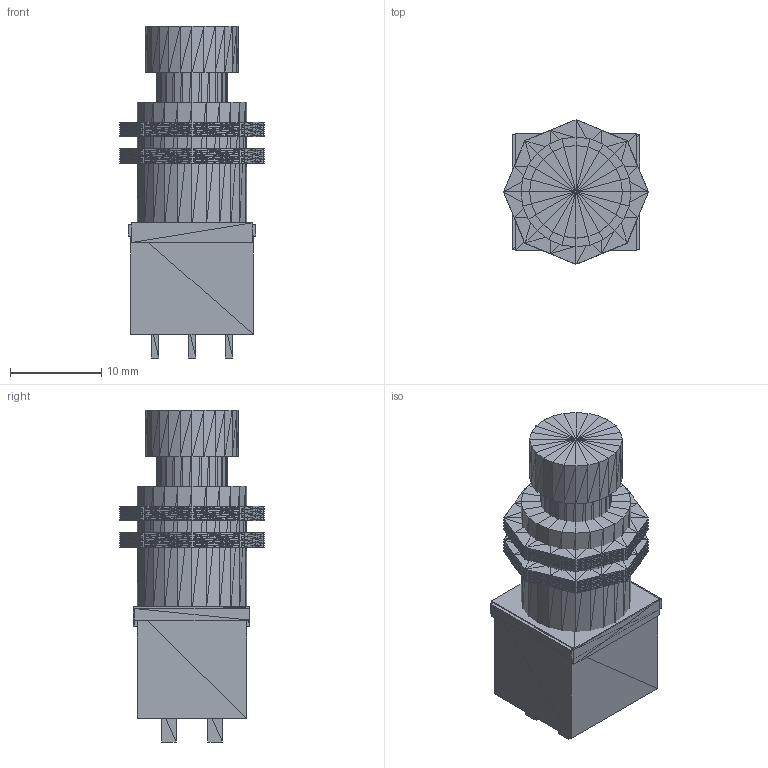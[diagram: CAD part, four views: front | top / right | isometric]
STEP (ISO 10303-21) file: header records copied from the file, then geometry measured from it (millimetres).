
FILE_DESCRIPTION(('HOOPS Exchange Step'),'2;1');
FILE_NAME('***.stp');
FILE_SCHEMA( ('AP242_MANAGED_MODEL_BASED_3D_ENGINEERING_MIM_LF {1 0 10303 442 1 1 4 }') );
Length unit declared in the file: inch
Products named in the file (27): SWPUSHDPDT_2; SWPUSHDPDT_3; SWPUSHDPDT_4; SWPUSHDPDT_5; SWPUSHDPDT_6; SWPUSHDPDT_7; SWPUSHDPDT_8; SWPUSHDPDT_9; SWPUSHDPDT_10; SWPUSHDPDT_11; SWPUSHDPDT_12; SWPUSHDPDT_13; SWPUSHDPDT_14; SWPUSHDPDT_15; SWPUSHDPDT_16; SWPUSHDPDT_17; SWPUSHDPDT_18; SWPUSHDPDT_19; SWPUSHDPDT_20; SWPUSHDPDT_21; SWPUSHDPDT_22; SWPUSHDPDT_23; SWPUSHDPDT_24; SWPUSHDPDT_25; SWPUSHDPDT_26; SWPUSHDPDT_27; SWPUSHDPDT
Assembly tree (26 placements, depth 2):
  SWPUSHDPDT
    SWPUSHDPDT_2
    SWPUSHDPDT_3
    SWPUSHDPDT_4
    SWPUSHDPDT_5
    SWPUSHDPDT_6
    SWPUSHDPDT_7
    SWPUSHDPDT_8
    SWPUSHDPDT_9
    SWPUSHDPDT_10
    SWPUSHDPDT_11
    SWPUSHDPDT_12
    SWPUSHDPDT_13
    SWPUSHDPDT_14
    SWPUSHDPDT_15
    SWPUSHDPDT_16
    SWPUSHDPDT_17
    SWPUSHDPDT_18
    SWPUSHDPDT_19
    SWPUSHDPDT_20
    SWPUSHDPDT_21
    SWPUSHDPDT_22
    SWPUSHDPDT_23
    SWPUSHDPDT_24
    SWPUSHDPDT_25
    SWPUSHDPDT_26
    SWPUSHDPDT_27
Bounding box: 15.88 x 15.88 x 36.43 mm (x, y, z)
Volume: 5417.1 mm3; surface area: 4352.2 mm2
Topology: 18 solids, 26 shells, 2660 faces, 4086 edges, 1462 vertices
Faces by surface type: plane 2660
Entity records: 53755 total; most frequent: DIRECTION 9514, CARTESIAN_POINT 8262, ORIENTED_EDGE 7980, VECTOR 4086, LINE 4086, EDGE_CURVE 4086, AXIS2_PLACEMENT_3D 2714, PLANE 2660
